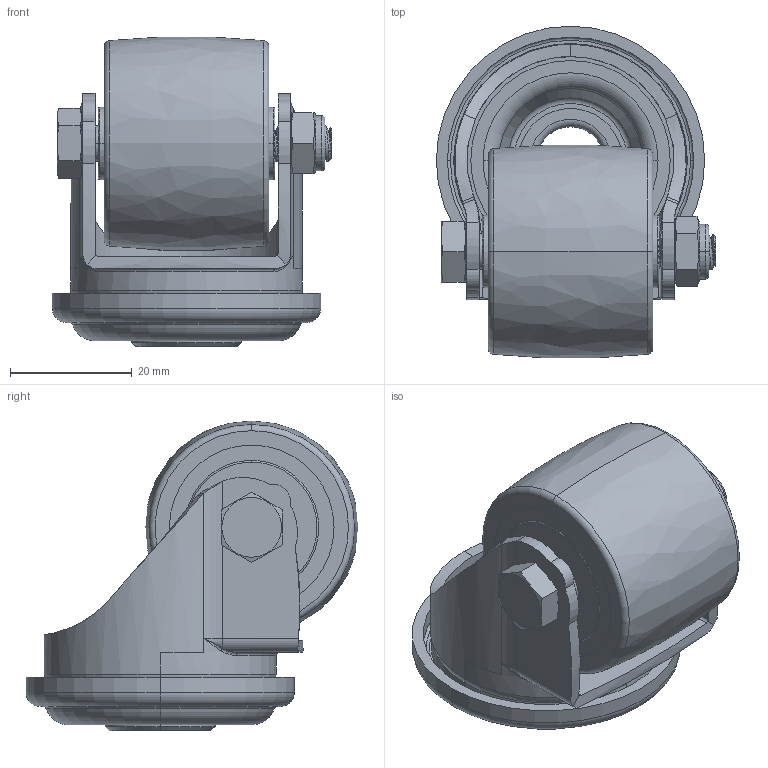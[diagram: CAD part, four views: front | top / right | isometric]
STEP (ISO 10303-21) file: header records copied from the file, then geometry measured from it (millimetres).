
FILE_DESCRIPTION((''),'2;1');
FILE_NAME('ASM0001_ASM','2023-03-10T17:01:43',('win11'),(''),'CREO PARAMETRIC BY PTC INC, 2018050','CREO PARAMETRIC BY PTC INC, 2018050','');
FILE_SCHEMA(('CONFIG_CONTROL_DESIGN'));
Length unit declared in the file: millimetre
Products named in the file (8): 321429-11; 500745; 500745-01; 500746; 500073_M6_40; 500158_M6; 331053_ASM; ASM0001_ASM
Assembly tree (8 placements, depth 3):
  ASM0001_ASM
    321429-11
    331053_ASM
      500745
      500745-01
      500746  x2
      500073_M6_40
      500158_M6
Bounding box: 45.8 x 54.43 x 50.8 mm (x, y, z)
Volume: 38499.6 mm3; surface area: 25165.3 mm2
Topology: 7 solids, 8 shells, 275 faces, 640 edges, 398 vertices
Faces by surface type: cylinder 100, plane 51, torus 48, bspline 46, cone 30
Entity records: 12175 total; most frequent: CARTESIAN_POINT 6463, ORIENTED_EDGE 1184, DIRECTION 1113, EDGE_CURVE 592, AXIS2_PLACEMENT_3D 472, VERTEX_POINT 370, EDGE_LOOP 282, FACE_OUTER_BOUND 251
